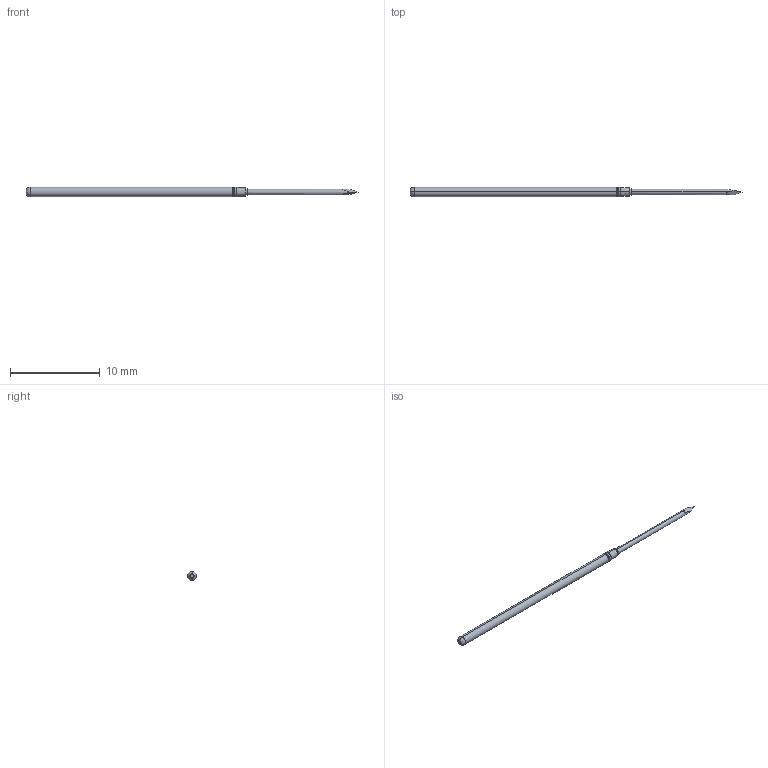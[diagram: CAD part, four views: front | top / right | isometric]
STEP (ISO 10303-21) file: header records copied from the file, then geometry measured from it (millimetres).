
FILE_DESCRIPTION (( 'STEP AP203' ), '1' );
FILE_NAME ('101348-001-922 (REST).STEP', '2022-11-24T08:44:57', ( '' ), ( '' ), 'SwSTEP 2.0', 'SolidWorks 2022', '' );
FILE_SCHEMA (( 'CONFIG_CONTROL_DESIGN' ));
Length unit declared in the file: inch
Products named in the file (1): 101348-001-922 (REST)
Bounding box: 37.08 x 1.02 x 1.02 mm (x, y, z)
Volume: 23.5 mm3; surface area: 102.9 mm2
Topology: 1 solids, 1 shells, 26 faces, 52 edges, 30 vertices
Faces by surface type: cylinder 8, torus 6, cone 6, plane 6
Entity records: 753 total; most frequent: DIRECTION 131, CARTESIAN_POINT 124, ORIENTED_EDGE 104, AXIS2_PLACEMENT_3D 57, EDGE_CURVE 52, CIRCLE 30, VERTEX_POINT 30, EDGE_LOOP 28
